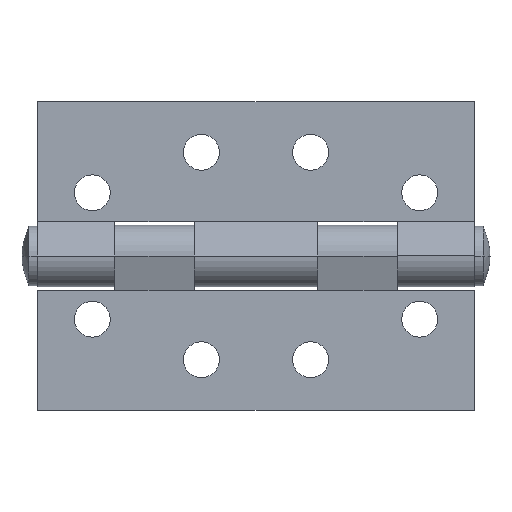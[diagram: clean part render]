
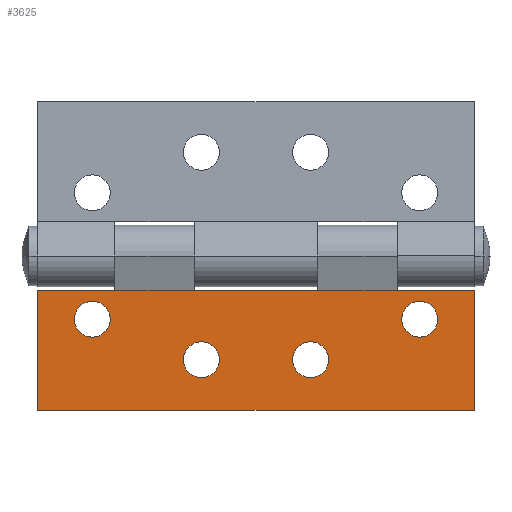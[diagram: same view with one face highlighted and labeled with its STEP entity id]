
A CAD part, front view. The second image highlights one B-rep face of the part: STEP entity #3625.
In plain terms, the highlighted planar face has unit normal (0, -1, 0).
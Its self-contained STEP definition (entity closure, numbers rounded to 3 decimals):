
#38 = ORIENTED_EDGE ( 'NONE', *, *, #3424, .F. ) ;
#80 = CARTESIAN_POINT ( 'NONE',  ( -42.5, -1.6, -23.37 ) ) ;
#84 = LINE ( 'NONE', #3092, #3188 ) ;
#115 = AXIS2_PLACEMENT_3D ( 'NONE', #626, #2979, #3277 ) ;
#158 = FACE_BOUND ( 'NONE', #823, .T. ) ;
#245 = CARTESIAN_POINT ( 'NONE',  ( -12., -1.6, 0. ) ) ;
#246 = VERTEX_POINT ( 'NONE', #245 ) ;
#310 = AXIS2_PLACEMENT_3D ( 'NONE', #587, #2054, #2909 ) ;
#311 = CARTESIAN_POINT ( 'NONE',  ( 42.5, -1.6, 0. ) ) ;
#316 = EDGE_CURVE ( 'NONE', #1348, #1951, #1279, .T. ) ;
#330 = CARTESIAN_POINT ( 'NONE',  ( 42.5, -1.6, 0. ) ) ;
#348 = ORIENTED_EDGE ( 'NONE', *, *, #2978, .F. ) ;
#367 = CARTESIAN_POINT ( 'NONE',  ( -10.625, -1.6, -17.07 ) ) ;
#466 = VERTEX_POINT ( 'NONE', #2421 ) ;
#497 = VERTEX_POINT ( 'NONE', #648 ) ;
#572 = CIRCLE ( 'NONE', #310, 3.5 ) ;
#587 = CARTESIAN_POINT ( 'NONE',  ( 31.875, -1.6, -5.67 ) ) ;
#593 = DIRECTION ( 'NONE',  ( 0., -1., 0. ) ) ;
#620 = DIRECTION ( 'NONE',  ( 1., 0., 0. ) ) ;
#626 = CARTESIAN_POINT ( 'NONE',  ( 42.5, -1.6, -23.37 ) ) ;
#643 = VERTEX_POINT ( 'NONE', #1913 ) ;
#644 = EDGE_LOOP ( 'NONE', ( #2890, #3290, #1886, #1783, #1816, #1434, #2503, #3507 ) ) ;
#648 = CARTESIAN_POINT ( 'NONE',  ( 31.875, -1.6, -2.17 ) ) ;
#651 = DIRECTION ( 'NONE',  ( -1., 0., 0. ) ) ;
#674 = FACE_BOUND ( 'NONE', #3226, .T. ) ;
#677 = CARTESIAN_POINT ( 'NONE',  ( 42.5, -1.6, -23.37 ) ) ;
#712 = ORIENTED_EDGE ( 'NONE', *, *, #3207, .F. ) ;
#823 = EDGE_LOOP ( 'NONE', ( #1777, #348 ) ) ;
#855 = EDGE_CURVE ( 'NONE', #246, #2609, #84, .T. ) ;
#973 = VERTEX_POINT ( 'NONE', #1263 ) ;
#980 = VERTEX_POINT ( 'NONE', #1278 ) ;
#1004 = EDGE_CURVE ( 'NONE', #466, #3713, #1080, .T. ) ;
#1054 = FACE_BOUND ( 'NONE', #2964, .T. ) ;
#1080 = LINE ( 'NONE', #677, #2137 ) ;
#1122 = VECTOR ( 'NONE', #3288, 1000. ) ;
#1168 = CARTESIAN_POINT ( 'NONE',  ( 10.625, -1.6, -17.07 ) ) ;
#1184 = FACE_BOUND ( 'NONE', #2425, .T. ) ;
#1235 = CARTESIAN_POINT ( 'NONE',  ( 31.875, -1.6, -5.67 ) ) ;
#1263 = CARTESIAN_POINT ( 'NONE',  ( -42.5, -1.6, -23.37 ) ) ;
#1278 = CARTESIAN_POINT ( 'NONE',  ( 27.5, -1.6, 0. ) ) ;
#1279 = CIRCLE ( 'NONE', #2877, 3.5 ) ;
#1284 = CIRCLE ( 'NONE', #2933, 3.5 ) ;
#1310 = CIRCLE ( 'NONE', #3525, 3.5 ) ;
#1348 = VERTEX_POINT ( 'NONE', #1455 ) ;
#1382 = VECTOR ( 'NONE', #2136, 1000. ) ;
#1425 = LINE ( 'NONE', #80, #2799 ) ;
#1434 = ORIENTED_EDGE ( 'NONE', *, *, #2381, .F. ) ;
#1443 = DIRECTION ( 'NONE',  ( 0., -1., 0. ) ) ;
#1455 = CARTESIAN_POINT ( 'NONE',  ( -31.875, -1.6, -9.17 ) ) ;
#1516 = DIRECTION ( 'NONE',  ( 0., -1., 0. ) ) ;
#1537 = LINE ( 'NONE', #1808, #1122 ) ;
#1653 = LINE ( 'NONE', #330, #3701 ) ;
#1726 = AXIS2_PLACEMENT_3D ( 'NONE', #3034, #2751, #1872 ) ;
#1742 = CARTESIAN_POINT ( 'NONE',  ( -10.625, -1.6, -13.57 ) ) ;
#1751 = CARTESIAN_POINT ( 'NONE',  ( 10.625, -1.6, -10.07 ) ) ;
#1777 = ORIENTED_EDGE ( 'NONE', *, *, #3798, .F. ) ;
#1783 = ORIENTED_EDGE ( 'NONE', *, *, #2353, .T. ) ;
#1808 = CARTESIAN_POINT ( 'NONE',  ( 42.5, -1.6, 0. ) ) ;
#1816 = ORIENTED_EDGE ( 'NONE', *, *, #3556, .T. ) ;
#1856 = CARTESIAN_POINT ( 'NONE',  ( -31.875, -1.6, -2.17 ) ) ;
#1872 = DIRECTION ( 'NONE',  ( 0., 0., -1. ) ) ;
#1886 = ORIENTED_EDGE ( 'NONE', *, *, #1004, .T. ) ;
#1897 = VECTOR ( 'NONE', #651, 1000. ) ;
#1912 = CARTESIAN_POINT ( 'NONE',  ( 10.625, -1.6, -13.57 ) ) ;
#1913 = CARTESIAN_POINT ( 'NONE',  ( -10.625, -1.6, -10.07 ) ) ;
#1915 = EDGE_CURVE ( 'NONE', #2242, #3812, #1954, .T. ) ;
#1923 = AXIS2_PLACEMENT_3D ( 'NONE', #1235, #2989, #2360 ) ;
#1951 = VERTEX_POINT ( 'NONE', #1856 ) ;
#1954 = CIRCLE ( 'NONE', #2607, 3.5 ) ;
#1995 = AXIS2_PLACEMENT_3D ( 'NONE', #2020, #2625, #2906 ) ;
#2020 = CARTESIAN_POINT ( 'NONE',  ( -31.875, -1.6, -5.67 ) ) ;
#2054 = DIRECTION ( 'NONE',  ( 0., -1., 0. ) ) ;
#2055 = CIRCLE ( 'NONE', #1995, 3.5 ) ;
#2107 = DIRECTION ( 'NONE',  ( 0., 0., 1. ) ) ;
#2123 = PLANE ( 'NONE',  #115 ) ;
#2129 = CARTESIAN_POINT ( 'NONE',  ( 42.5, -1.6, 0. ) ) ;
#2136 = DIRECTION ( 'NONE',  ( -1., 0., 0. ) ) ;
#2137 = VECTOR ( 'NONE', #2107, 1000. ) ;
#2212 = VERTEX_POINT ( 'NONE', #3199 ) ;
#2237 = EDGE_CURVE ( 'NONE', #2834, #2609, #3817, .T. ) ;
#2242 = VERTEX_POINT ( 'NONE', #1751 ) ;
#2250 = VERTEX_POINT ( 'NONE', #3801 ) ;
#2256 = EDGE_CURVE ( 'NONE', #3617, #643, #1310, .T. ) ;
#2300 = CIRCLE ( 'NONE', #1726, 3.5 ) ;
#2346 = DIRECTION ( 'NONE',  ( 0., 0., -1. ) ) ;
#2353 = EDGE_CURVE ( 'NONE', #3713, #980, #2868, .T. ) ;
#2360 = DIRECTION ( 'NONE',  ( 0., 0., -1. ) ) ;
#2381 = EDGE_CURVE ( 'NONE', #246, #2212, #1537, .T. ) ;
#2417 = CARTESIAN_POINT ( 'NONE',  ( 42.5, -1.6, -23.37 ) ) ;
#2421 = CARTESIAN_POINT ( 'NONE',  ( 42.5, -1.6, -23.37 ) ) ;
#2425 = EDGE_LOOP ( 'NONE', ( #2643, #2916 ) ) ;
#2503 = ORIENTED_EDGE ( 'NONE', *, *, #855, .T. ) ;
#2514 = DIRECTION ( 'NONE',  ( 0., -1., 0. ) ) ;
#2607 = AXIS2_PLACEMENT_3D ( 'NONE', #3338, #2514, #2768 ) ;
#2609 = VERTEX_POINT ( 'NONE', #3170 ) ;
#2625 = DIRECTION ( 'NONE',  ( 0., -1., 0. ) ) ;
#2643 = ORIENTED_EDGE ( 'NONE', *, *, #3137, .F. ) ;
#2751 = DIRECTION ( 'NONE',  ( 0., -1., 0. ) ) ;
#2768 = DIRECTION ( 'NONE',  ( 0., 0., -1. ) ) ;
#2799 = VECTOR ( 'NONE', #2931, 1000. ) ;
#2819 = DIRECTION ( 'NONE',  ( -1., 0., 0. ) ) ;
#2834 = VERTEX_POINT ( 'NONE', #3087 ) ;
#2868 = LINE ( 'NONE', #2129, #1897 ) ;
#2877 = AXIS2_PLACEMENT_3D ( 'NONE', #3270, #1516, #3796 ) ;
#2890 = ORIENTED_EDGE ( 'NONE', *, *, #3177, .F. ) ;
#2906 = DIRECTION ( 'NONE',  ( 0., 0., -1. ) ) ;
#2909 = DIRECTION ( 'NONE',  ( 0., 0., -1. ) ) ;
#2916 = ORIENTED_EDGE ( 'NONE', *, *, #2256, .F. ) ;
#2931 = DIRECTION ( 'NONE',  ( 0., 0., 1. ) ) ;
#2933 = AXIS2_PLACEMENT_3D ( 'NONE', #1912, #1443, #3739 ) ;
#2964 = EDGE_LOOP ( 'NONE', ( #3231, #38 ) ) ;
#2978 = EDGE_CURVE ( 'NONE', #2250, #497, #3025, .T. ) ;
#2979 = DIRECTION ( 'NONE',  ( 0., -1., 0. ) ) ;
#2989 = DIRECTION ( 'NONE',  ( 0., -1., 0. ) ) ;
#3004 = DIRECTION ( 'NONE',  ( -1., 0., 0. ) ) ;
#3025 = CIRCLE ( 'NONE', #1923, 3.5 ) ;
#3034 = CARTESIAN_POINT ( 'NONE',  ( -10.625, -1.6, -13.57 ) ) ;
#3036 = CARTESIAN_POINT ( 'NONE',  ( 42.5, -1.6, 0. ) ) ;
#3087 = CARTESIAN_POINT ( 'NONE',  ( -42.5, -1.6, 0. ) ) ;
#3092 = CARTESIAN_POINT ( 'NONE',  ( 42.5, -1.6, 0. ) ) ;
#3124 = LINE ( 'NONE', #2417, #1382 ) ;
#3137 = EDGE_CURVE ( 'NONE', #643, #3617, #2300, .T. ) ;
#3170 = CARTESIAN_POINT ( 'NONE',  ( -27.5, -1.6, 0. ) ) ;
#3177 = EDGE_CURVE ( 'NONE', #973, #2834, #1425, .T. ) ;
#3188 = VECTOR ( 'NONE', #2819, 1000. ) ;
#3199 = CARTESIAN_POINT ( 'NONE',  ( 12., -1.6, 0. ) ) ;
#3207 = EDGE_CURVE ( 'NONE', #1951, #1348, #2055, .T. ) ;
#3212 = FACE_OUTER_BOUND ( 'NONE', #644, .T. ) ;
#3226 = EDGE_LOOP ( 'NONE', ( #712, #3395 ) ) ;
#3231 = ORIENTED_EDGE ( 'NONE', *, *, #1915, .F. ) ;
#3270 = CARTESIAN_POINT ( 'NONE',  ( -31.875, -1.6, -5.67 ) ) ;
#3277 = DIRECTION ( 'NONE',  ( 0., 0., -1. ) ) ;
#3288 = DIRECTION ( 'NONE',  ( 1., 0., 0. ) ) ;
#3290 = ORIENTED_EDGE ( 'NONE', *, *, #3606, .F. ) ;
#3338 = CARTESIAN_POINT ( 'NONE',  ( 10.625, -1.6, -13.57 ) ) ;
#3395 = ORIENTED_EDGE ( 'NONE', *, *, #316, .F. ) ;
#3424 = EDGE_CURVE ( 'NONE', #3812, #2242, #1284, .T. ) ;
#3507 = ORIENTED_EDGE ( 'NONE', *, *, #2237, .F. ) ;
#3525 = AXIS2_PLACEMENT_3D ( 'NONE', #1742, #593, #2346 ) ;
#3556 = EDGE_CURVE ( 'NONE', #980, #2212, #1653, .T. ) ;
#3586 = VECTOR ( 'NONE', #620, 1000. ) ;
#3606 = EDGE_CURVE ( 'NONE', #466, #973, #3124, .T. ) ;
#3617 = VERTEX_POINT ( 'NONE', #367 ) ;
#3625 = ADVANCED_FACE ( 'NONE', ( #1184, #1054, #158, #674, #3212 ), #2123, .T. ) ;
#3701 = VECTOR ( 'NONE', #3004, 1000. ) ;
#3713 = VERTEX_POINT ( 'NONE', #3036 ) ;
#3739 = DIRECTION ( 'NONE',  ( 0., 0., -1. ) ) ;
#3796 = DIRECTION ( 'NONE',  ( 0., 0., -1. ) ) ;
#3798 = EDGE_CURVE ( 'NONE', #497, #2250, #572, .T. ) ;
#3801 = CARTESIAN_POINT ( 'NONE',  ( 31.875, -1.6, -9.17 ) ) ;
#3812 = VERTEX_POINT ( 'NONE', #1168 ) ;
#3817 = LINE ( 'NONE', #311, #3586 ) ;
